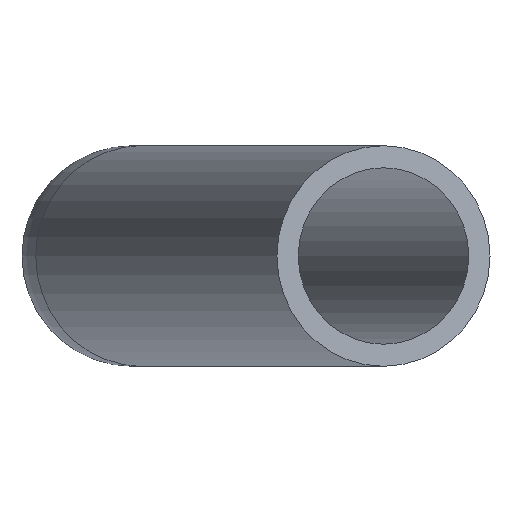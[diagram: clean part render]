
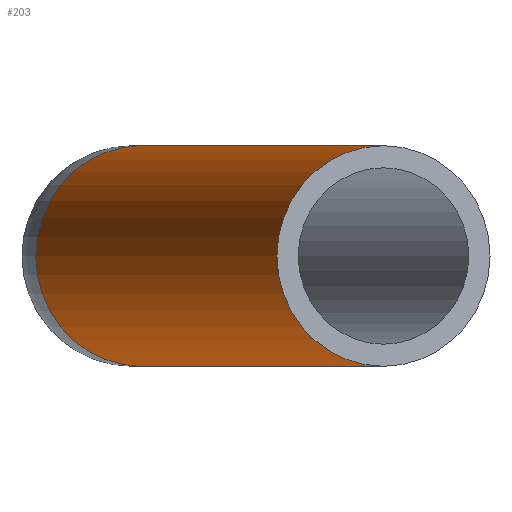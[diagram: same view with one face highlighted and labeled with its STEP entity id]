
A CAD part, left-side view. The second image highlights one B-rep face of the part: STEP entity #203.
In plain terms, the highlighted cylindrical face has radius 7.5 mm (diameter 15 mm), a full revolution.
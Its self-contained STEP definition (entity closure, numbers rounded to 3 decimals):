
#172=CARTESIAN_POINT('',(-7.118,26.563,0.));
#173=VERTEX_POINT('',#172);
#174=CARTESIAN_POINT('',(-5.176,19.319,0.0));
#175=DIRECTION('',(-0.966,-0.259,0.0));
#176=DIRECTION('',(0.259,-0.966,0.0));
#177=AXIS2_PLACEMENT_3D('',#174,#175,#176);
#178=CIRCLE('',#177,7.5);
#179=EDGE_CURVE('',#173,#173,#178,.T.);
#184=CARTESIAN_POINT('',(-66.384,2.918,0.0));
#185=DIRECTION('',(0.966,0.259,0.0));
#186=DIRECTION('',(0.259,-0.966,0.0));
#187=AXIS2_PLACEMENT_3D('',#184,#185,#186);
#188=CYLINDRICAL_SURFACE('',#187,7.5);
#189=ORIENTED_EDGE('',*,*,#179,.T.);
#190=EDGE_LOOP('',(#189));
#191=FACE_OUTER_BOUND('',#190,.T.);
#192=CARTESIAN_POINT('',(-68.325,10.162,0.));
#193=VERTEX_POINT('',#192);
#194=CARTESIAN_POINT('',(-66.384,2.918,0.0));
#195=DIRECTION('',(-0.966,-0.259,0.0));
#196=DIRECTION('',(0.259,-0.966,0.0));
#197=AXIS2_PLACEMENT_3D('',#194,#195,#196);
#198=CIRCLE('',#197,7.5);
#199=EDGE_CURVE('',#193,#193,#198,.T.);
#200=ORIENTED_EDGE('',*,*,#199,.F.);
#201=EDGE_LOOP('',(#200));
#202=FACE_BOUND('',#201,.T.);
#203=ADVANCED_FACE('',(#191,#202),#188,.T.);
